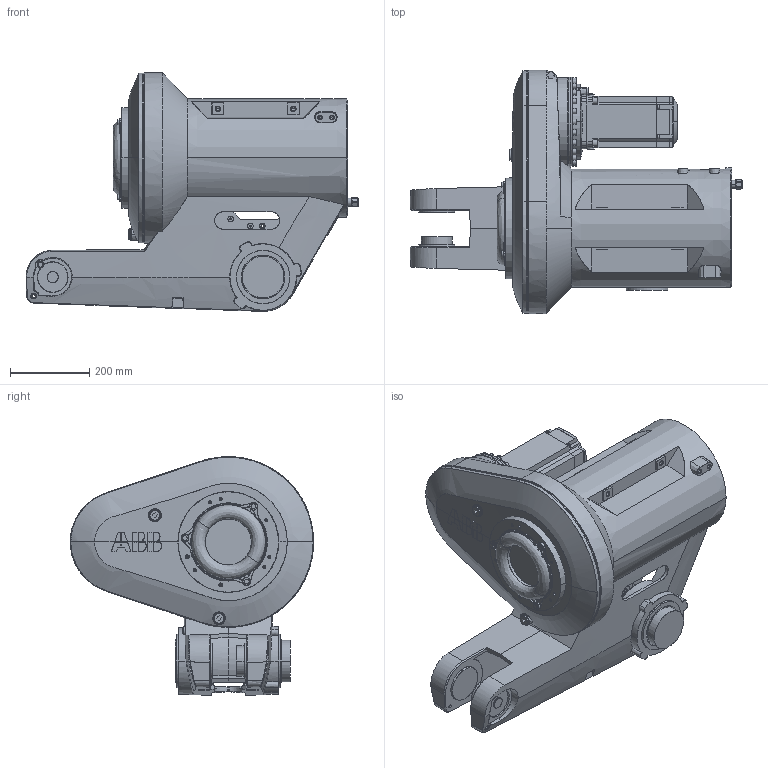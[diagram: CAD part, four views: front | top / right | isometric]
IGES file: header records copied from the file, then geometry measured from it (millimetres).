
Start section: SolidWorks IGES file using analytic representation for surfaces
Global section: file name: C:\Users\SEJAOLS6\OneDrive - ABB\Documents\SAP\7710\7710_Lightweight_models\IRB7710-LID-SW_280kg-350_OC_01_SW_J\IRB7710-LID-SW_280kg_350_OC_01_IGES_J\IRB7710_All_OC_00_LINK03_CAD.igs; native system: SolidWorks 2024; preprocessor: SolidWorks 2024; author: SEJAOLS6; date: 260126.162307; units: millimetre
Bounding box: 836.33 x 612.99 x 601.45 mm (x, y, z)
Surface area: 2311331.5 mm2 (no closed solid volume)
Topology: 0 solids, 0 shells, 1365 faces, 23398 edges, 23371 vertices
Faces by surface type: bspline 695, revolution 670
